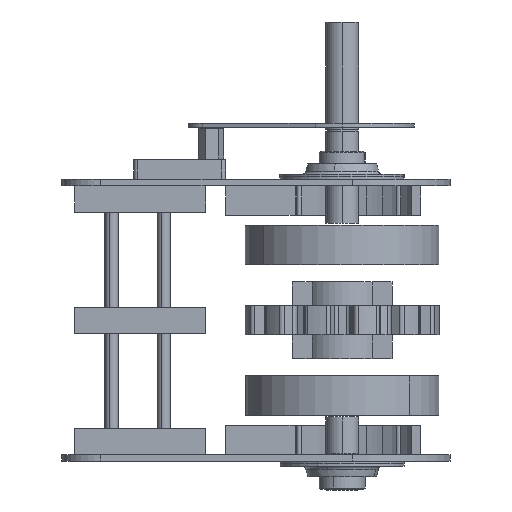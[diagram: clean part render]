
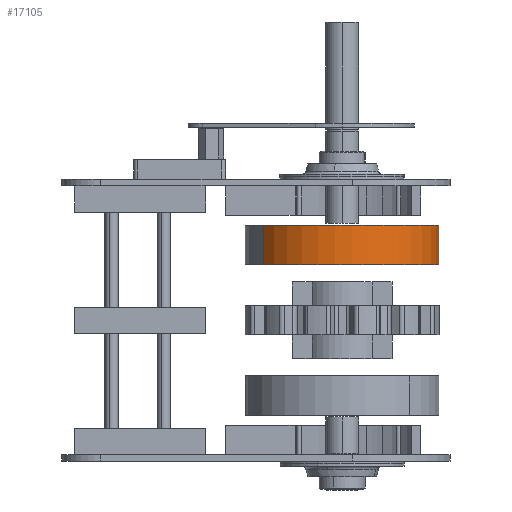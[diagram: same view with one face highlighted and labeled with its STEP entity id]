
A CAD part, front view. The second image highlights one B-rep face of the part: STEP entity #17105.
In plain terms, the highlighted cylindrical face has radius 74 mm (diameter 148 mm), a partial arc.
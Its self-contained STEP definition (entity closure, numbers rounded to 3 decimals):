
#369 = DIRECTION ( 'NONE',  ( 0.813, 0.582, 0. ) ) ;
#707 = VERTEX_POINT ( 'NONE', #10927 ) ;
#1572 = CARTESIAN_POINT ( 'NONE',  ( -142.699, -125.536, -65. ) ) ;
#1702 = CARTESIAN_POINT ( 'NONE',  ( -142.699, -125.536, -35. ) ) ;
#1827 = AXIS2_PLACEMENT_3D ( 'NONE', #6475, #16225, #7874 ) ;
#2215 = EDGE_CURVE ( 'NONE', #16297, #14200, #7136, .T. ) ;
#2307 = FACE_OUTER_BOUND ( 'NONE', #7654, .T. ) ;
#2539 = VECTOR ( 'NONE', #12907, 1000. ) ;
#3097 = VERTEX_POINT ( 'NONE', #5493 ) ;
#3241 = CIRCLE ( 'NONE', #1827, 74. ) ;
#4118 = EDGE_CURVE ( 'NONE', #14200, #3097, #6257, .T. ) ;
#4514 = DIRECTION ( 'NONE',  ( 0., 0., -1. ) ) ;
#4581 = EDGE_CURVE ( 'NONE', #16297, #707, #3241, .T. ) ;
#5443 = CARTESIAN_POINT ( 'NONE',  ( -22.301, -39.464, -35. ) ) ;
#5493 = CARTESIAN_POINT ( 'NONE',  ( -22.301, -39.464, -65. ) ) ;
#5665 = AXIS2_PLACEMENT_3D ( 'NONE', #7559, #17335, #8960 ) ;
#6257 = CIRCLE ( 'NONE', #5665, 74. ) ;
#6446 = EDGE_CURVE ( 'NONE', #707, #3097, #10209, .T. ) ;
#6475 = CARTESIAN_POINT ( 'NONE',  ( -82.5, -82.5, -35. ) ) ;
#6577 = ORIENTED_EDGE ( 'NONE', *, *, #4118, .T. ) ;
#7032 = ORIENTED_EDGE ( 'NONE', *, *, #6446, .F. ) ;
#7136 = LINE ( 'NONE', #1702, #2539 ) ;
#7559 = CARTESIAN_POINT ( 'NONE',  ( -82.5, -82.5, -65. ) ) ;
#7654 = EDGE_LOOP ( 'NONE', ( #16392, #16846, #6577, #7032 ) ) ;
#7874 = DIRECTION ( 'NONE',  ( -0.813, -0.582, 0. ) ) ;
#8960 = DIRECTION ( 'NONE',  ( -0.813, -0.582, 0. ) ) ;
#9280 = CYLINDRICAL_SURFACE ( 'NONE', #13823, 74. ) ;
#10209 = LINE ( 'NONE', #5443, #13489 ) ;
#10927 = CARTESIAN_POINT ( 'NONE',  ( -22.301, -39.464, -35. ) ) ;
#12907 = DIRECTION ( 'NONE',  ( 0., 0., -1. ) ) ;
#13489 = VECTOR ( 'NONE', #16606, 1000. ) ;
#13823 = AXIS2_PLACEMENT_3D ( 'NONE', #15668, #4514, #369 ) ;
#14200 = VERTEX_POINT ( 'NONE', #1572 ) ;
#15668 = CARTESIAN_POINT ( 'NONE',  ( -82.5, -82.5, -35. ) ) ;
#15814 = CARTESIAN_POINT ( 'NONE',  ( -142.699, -125.536, -35. ) ) ;
#16225 = DIRECTION ( 'NONE',  ( 0., 0., 1. ) ) ;
#16297 = VERTEX_POINT ( 'NONE', #15814 ) ;
#16392 = ORIENTED_EDGE ( 'NONE', *, *, #4581, .F. ) ;
#16606 = DIRECTION ( 'NONE',  ( 0., 0., -1. ) ) ;
#16846 = ORIENTED_EDGE ( 'NONE', *, *, #2215, .T. ) ;
#17105 = ADVANCED_FACE ( 'NONE', ( #2307 ), #9280, .T. ) ;
#17335 = DIRECTION ( 'NONE',  ( 0., 0., 1. ) ) ;
